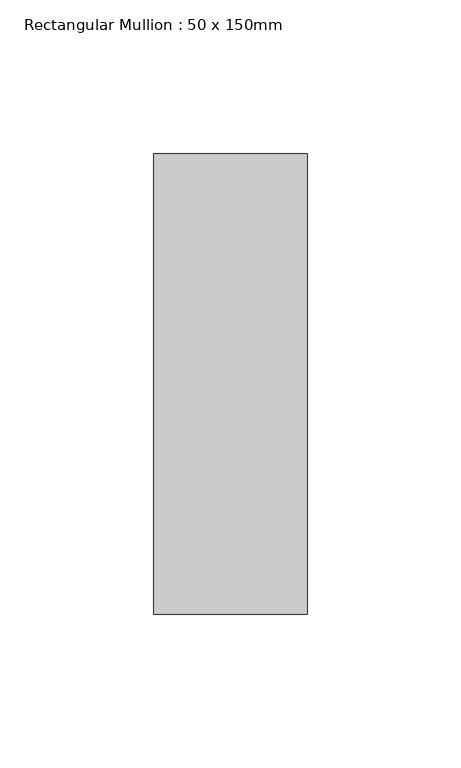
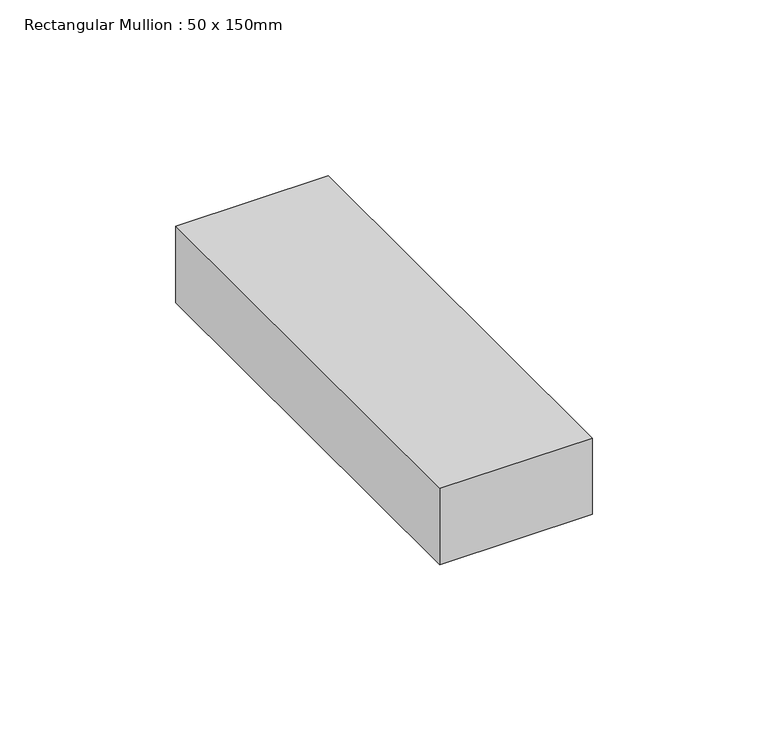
"""IFC4 building model written with IfcOpenShell, lengths in millimetres: member geometry, Rectangular Mullion : 50 x 150mm."""

import ifcopenshell
import ifcopenshell.guid

model = None  # the IFC model being written
_history = None  # IfcOwnerHistory: only IFC2X3 demands one
_inside = {}  # id of a spatial element -> (the spatial element, [elements in it])
_under = {}  # id of a project, library or spatial element -> (it, [spatial elements below it])
_declared = {}  # id of a project -> (the project, [libraries it declares])
_typed = {}  # id of a type object -> (the type object, [elements of that type])
_made_of = {}  # id of a material, layer set ... -> (it, [elements and type objects made of it])


def new_model(schema):
    """Start an empty IFC model of exactly this schema.

    Asked for "IFC4X3", IfcOpenShell would pick the latest addendum, in which some entities
    have other attributes; the version numbers below select the first issue.
    IFC2X3 requires an IfcOwnerHistory on every rooted entity: one is made here for all.
    """
    global model, _history
    if schema == "IFC4X3":
        model = ifcopenshell.file(schema_version=(4, 3, 0, 0))
    else:
        model = ifcopenshell.file(schema=schema)
    _inside.clear()
    _under.clear()
    _declared.clear()
    _typed.clear()
    _made_of.clear()
    _history = None
    if model.schema == "IFC2X3":
        org = make("IfcOrganization", Name="unknown")
        user = make(
            "IfcPersonAndOrganization",
            ThePerson=make("IfcPerson", FamilyName="unknown"),
            TheOrganization=org,
        )
        app = make(
            "IfcApplication",
            ApplicationDeveloper=org,
            Version="unknown",
            ApplicationFullName="unknown",
            ApplicationIdentifier="unknown",
        )
        _history = make(
            "IfcOwnerHistory",
            OwningUser=user,
            OwningApplication=app,
            ChangeAction="ADDED",
            CreationDate=0,
        )
    return model


def make(cls, **values):
    """One entity of the class cls with the attributes given. An attribute that is None is left unset."""
    return model.create_entity(
        cls, **{name: value for name, value in values.items() if value is not None}
    )


def rooted(cls, **values):
    """An entity with a GlobalId (a new one), such as an element, a storey or a relation."""
    return make(cls, GlobalId=ifcopenshell.guid.new(), OwnerHistory=_history, **values)


def si_unit(unit_type, name, prefix=None):
    """IfcSIUnit, for example si_unit("LENGTHUNIT", "METRE", prefix="MILLI")."""
    return make("IfcSIUnit", UnitType=unit_type, Prefix=prefix, Name=name)


def assignment(units):
    """IfcUnitAssignment: the units of a project."""
    return None if units is None else make("IfcUnitAssignment", Units=units)


def point(xyz):
    """IfcCartesianPoint."""
    return None if xyz is None else make("IfcCartesianPoint", Coordinates=xyz)


def direction(xyz):
    """IfcDirection."""
    return None if xyz is None else make("IfcDirection", DirectionRatios=xyz)


def frame(location, z_axis=None, x_axis=None):
    """IfcAxis2Placement3D, a coordinate frame: its origin and axes. An axis left out is left unset."""
    return make(
        "IfcAxis2Placement3D",
        Location=point(location),
        Axis=direction(z_axis),
        RefDirection=direction(x_axis),
    )


def origin():
    """The frame at (0, 0, 0) with its axes left unset."""
    return frame((0.0, 0.0, 0.0))


def place(relative_to, where):
    """IfcLocalPlacement: puts the frame where relative to a parent placement (None: the world)."""
    return make(
        "IfcLocalPlacement", PlacementRelTo=relative_to, RelativePlacement=where
    )


def context(
    kind, dimensions, precision=None, world=None, true_north=None, identifier=None
):
    """IfcGeometricRepresentationContext, for example the 3D "Model" context."""
    return make(
        "IfcGeometricRepresentationContext",
        ContextIdentifier=identifier,
        ContextType=kind,
        CoordinateSpaceDimension=dimensions,
        Precision=precision,
        WorldCoordinateSystem=world,
        TrueNorth=true_north,
    )


def project(units=None, contexts=None):
    """IfcProject with its units and contexts."""
    return rooted(
        "IfcProject",
        Name="project",
        RepresentationContexts=contexts,
        UnitsInContext=assignment(units),
    )


def spatial(cls, under=None, at=None, **own):
    """A site, building, storey or space (cls), placed at a placement, below another one or the project."""
    s = rooted(cls, ObjectPlacement=at, **own)
    if under is not None:
        _under.setdefault(under.id(), (under, []))[1].append(s)
    return s


def polyline(points):
    """IfcPolyline through the points."""
    return make("IfcPolyline", Points=[point(p) for p in points])


def outline(outer, holes=None, kind="AREA"):
    """IfcArbitraryClosedProfileDef: a profile drawn as a closed curve; with holes, ...WithVoids."""
    if holes is None:
        return make("IfcArbitraryClosedProfileDef", ProfileType=kind, OuterCurve=outer)
    return make(
        "IfcArbitraryProfileDefWithVoids",
        ProfileType=kind,
        OuterCurve=outer,
        InnerCurves=holes,
    )


def extrude(swept, where, along, depth):
    """IfcExtrudedAreaSolid: the profile swept, set in the frame where, extruded along a direction by depth."""
    return make(
        "IfcExtrudedAreaSolid",
        SweptArea=swept,
        Position=where,
        ExtrudedDirection=direction(along),
        Depth=depth,
    )


def shape(context_of_items, identifier, shape_type, items):
    """IfcShapeRepresentation: the items that make up one representation, for example the "Body"."""
    return make(
        "IfcShapeRepresentation",
        ContextOfItems=context_of_items,
        RepresentationIdentifier=identifier,
        RepresentationType=shape_type,
        Items=items,
    )


def source(mapping_origin, context_of_items, identifier, shape_type, items):
    """IfcRepresentationMap: a shape defined once, which mapped items show again and again."""
    return make(
        "IfcRepresentationMap",
        MappingOrigin=mapping_origin,
        MappedRepresentation=shape(context_of_items, identifier, shape_type, items),
    )


def transform(
    local_origin,
    x_axis=None,
    y_axis=None,
    z_axis=None,
    scale=None,
    scale2=None,
    scale3=None,
    uniform=True,
):
    """IfcCartesianTransformationOperator3D, or its non-uniform kind. x_axis, y_axis, z_axis: its Axis1, 2, 3."""
    if uniform:
        return make(
            "IfcCartesianTransformationOperator3D",
            Axis1=direction(x_axis),
            Axis2=direction(y_axis),
            LocalOrigin=point(local_origin),
            Scale=scale,
            Axis3=direction(z_axis),
        )
    return make(
        "IfcCartesianTransformationOperator3DnonUniform",
        Axis1=direction(x_axis),
        Axis2=direction(y_axis),
        LocalOrigin=point(local_origin),
        Scale=scale,
        Axis3=direction(z_axis),
        Scale2=scale2,
        Scale3=scale3,
    )


def mapped(mapping_source, mapping_target):
    """IfcMappedItem: shows the shape of a source again, moved by a transform."""
    return make(
        "IfcMappedItem", MappingSource=mapping_source, MappingTarget=mapping_target
    )


def made_of(thing, what):
    """Note that an element or type object is made of a material, layer set ...; save() writes the relation."""
    if what is not None:
        _made_of.setdefault(what.id(), (what, []))[1].append(thing)
    return thing


def element(
    cls,
    number,
    at=None,
    inside=None,
    cuts=None,
    type_object=None,
    material=None,
    context=None,
    identifier="Body",
    shape_type=None,
    held_by="IfcProductDefinitionShape",
    body=None,
    shapes=None,
    **own,
):
    """One element of the class cls, such as IfcWall. Its Tag is "e" and its number.

    at: its placement. inside: the storey or other place that contains it. cuts: it is an
    opening in that element (IfcRelVoidsElement). A single representation is given by context,
    identifier, shape_type and body (its items); several are given by shapes. held_by: the class
    of the entity that holds the representations. save() writes the other relations.
    """
    e = rooted(cls, Tag="e%d" % number, ObjectPlacement=at, **own)
    if body is not None:
        shapes = [shape(context, identifier, shape_type, body)]
    if shapes is not None:
        e.Representation = make(held_by, Representations=shapes)
    if inside is not None:
        _inside.setdefault(inside.id(), (inside, []))[1].append(e)
    if cuts is not None:
        rooted(
            "IfcRelVoidsElement", RelatingBuildingElement=cuts, RelatedOpeningElement=e
        )
    if type_object is not None:
        _typed.setdefault(type_object.id(), (type_object, []))[1].append(e)
    return made_of(e, material)


def aggregate(whole, parts):
    """IfcRelAggregates: a whole, such as a stair, and the parts it consists of."""
    return rooted("IfcRelAggregates", RelatingObject=whole, RelatedObjects=parts)


def save(model, path):
    """Write the relations noted so far, then the file.

    IfcRelAggregates (storeys below a building ...), IfcRelContainedInSpatialStructure (elements
    in a storey), IfcRelDefinesByType, IfcRelAssociatesMaterial and IfcRelDeclares: one each for
    every whole, place, type object, material and project.
    """
    for whole, parts in _under.values():
        aggregate(whole, parts)
    for where, things in _inside.values():
        rooted(
            "IfcRelContainedInSpatialStructure",
            RelatedElements=things,
            RelatingStructure=where,
        )
    for kind, things in _typed.values():
        rooted("IfcRelDefinesByType", RelatedObjects=things, RelatingType=kind)
    for what, things in _made_of.values():
        rooted("IfcRelAssociatesMaterial", RelatedObjects=things, RelatingMaterial=what)
    for by, libraries in _declared.values():
        rooted("IfcRelDeclares", RelatingContext=by, RelatedDefinitions=libraries)
    model.write(path)


def rectangular_mullion_50_x_150mm_dbf6c517(model_context):
    return source(origin(), model_context, "Body", "SweptSolid", [
        extrude(outline(polyline([(25.0, 75.0), (25.0, -75.0), (-25.0, -75.0), (-25.0, 75.0), (25.0, 75.0)])), frame((0.0, 0.0, -26.4395488), z_axis=(0.0, 0.0, 1.0), x_axis=(1.0, 0.0, 0.0)), (0.0, 0.0, 1.0), 26.4395488),
    ])


if __name__ == "__main__":
    model = new_model("IFC4")
    model_context = context("Model", 3, world=origin())
    ifc_project = project(units=[si_unit("LENGTHUNIT", "METRE", prefix="MILLI")], contexts=[model_context])
    site = spatial("IfcSite", under=ifc_project)
    building = spatial("IfcBuilding", under=site)
    placement = place(None, origin())
    rectangular_mullion_50_x_150mm_shape = rectangular_mullion_50_x_150mm_dbf6c517(model_context)
    element("IfcMember", 1, ObjectType="Rectangular Mullion : 50 x 150mm", at=placement, inside=building, context=model_context, shape_type="MappedRepresentation", body=[
        mapped(rectangular_mullion_50_x_150mm_shape, transform((0.0, 0.0, 0.0), x_axis=(1.0, 0.0, 0.0), y_axis=(0.0, 1.0, 0.0), z_axis=(0.0, 0.0, 1.0))),
    ])
    save(model, "model.ifc")
